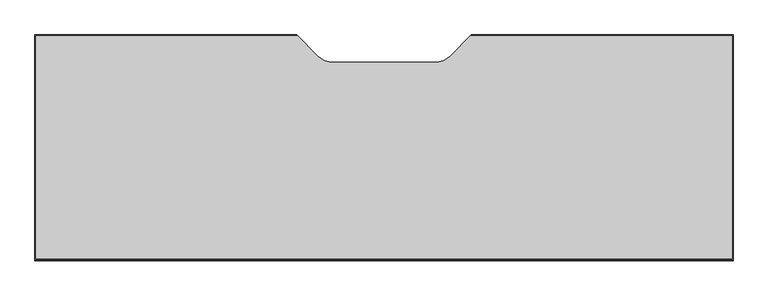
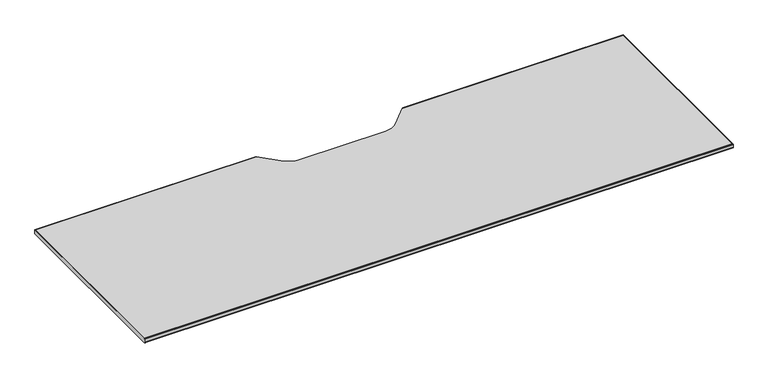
"""IFC4 building model written with IfcOpenShell, lengths in millimetres: furniture geometry, Steelcase Turnstone - Bivi - Table - Table Top : 24D x 72W."""

from ifc_helpers import new_model, si_unit, point, frame, frame_2d, origin, place, context, project, spatial, polyline, circle_curve, trimmed, segment, composite_curve, outline, extrude, source, transform, mapped, element, save
from ifc_brep_helpers import plane_surface, cylinder_surface, advanced_brep


def furniture_8c991483(model_context):
    return source(origin(), model_context, "Body", "SolidModel", [
        advanced_brep(
        [(514.3499939, 727.0750061, 723.566625), (515.3499939, 726.0750061, 723.566625), (515.3499939, 726.0750061, 710.485625), (514.3499939, 727.0750061, 710.485625), (957.8500067, 726.0750061, 723.566625), (958.8500061, 727.0750061, 723.566625), (958.8500061, 727.0750061, 710.485625), (957.8500067, 726.0750061, 710.485625), (1625.6, 727.0750061, 723.566625), (1624.6, 726.0750061, 723.566625), (1624.6, 155.2730061, 723.566625), (-151.4, 155.2730061, 723.566625), (-151.4, 726.0750061, 723.566625), (-152.4, 727.0750061, 723.566625), (-152.4, 154.3050061, 723.566625), (1625.6, 154.3050061, 723.566625), (1624.6, 726.0750061, 710.485625), (1624.6, 155.2730061, 710.485625), (1625.6, 727.0750061, 710.485625), (1625.6, 154.3050061, 710.485625), (-152.4, 154.3050061, 710.485625), (-152.4, 727.0750061, 710.485625), (-151.4, 726.0750061, 710.485625), (-151.4, 155.2730061, 710.485625), (1625.6, 152.2730061, 721.534625), (1625.6, 152.2730061, 712.517625), (-152.4, 152.2730061, 712.517625), (-152.4, 152.2730061, 721.534625)],
        [
            (0, 1),
            (1, 2),
            (2, 3),
            (3, 0),
            (4, 5),
            (5, 6),
            (6, 7),
            (7, 4),
            (8, 5),
            (4, 9),
            (9, 10),
            (10, 11),
            (11, 12),
            (12, 1),
            (0, 13),
            (13, 14),
            (14, 15),
            (15, 8),
            (9, 16),
            (16, 17),
            (17, 10),
            (16, 7),
            (6, 18),
            (18, 19),
            (19, 20),
            (20, 21),
            (21, 3),
            (2, 22),
            (22, 23),
            (23, 17),
            (15, 24, circle_curve(frame((1625.6, 154.3050061, 721.534625), z_axis=(1.0, 0.0, 0.0), x_axis=(0.0, 1.0, 0.0)), 2.032)),
            (24, 25),
            (25, 19, circle_curve(frame((1625.6, 154.3050061, 712.517625), z_axis=(1.0, 0.0, 0.0), x_axis=(0.0, 1.0, 0.0)), 2.032)),
            (18, 8),
            (12, 22),
            (21, 13),
            (11, 23),
            (20, 26, circle_curve(frame((-152.4, 154.3050061, 712.517625), z_axis=(-1.0, 0.0, 0.0), x_axis=(0.0, 1.0, 0.0)), 2.032)),
            (26, 27),
            (27, 14, circle_curve(frame((-152.4, 154.3050061, 721.534625), z_axis=(-1.0, 0.0, 0.0), x_axis=(0.0, 1.0, 0.0)), 2.032)),
            (25, 26),
            (24, 27),
        ],
        [
            plane_surface(frame((514.3499939, 727.0750061, 724.4389999), z_axis=(0.7071067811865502, 0.7071067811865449, 0.0), x_axis=(0.0, 0.0, -1.0))),
            plane_surface(frame((904.6973766, 672.9223408, 724.4389999), z_axis=(-0.7071070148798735, 0.7071065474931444, 0.0), x_axis=(0.0, 0.0, -1.0))),
            plane_surface(frame((1625.6, 155.2730061, 723.566625), z_axis=(0.0, 0.0, 1.0), x_axis=(0.0, 1.0, 0.0))),
            plane_surface(frame((1624.6, 155.2730061, 723.566625), z_axis=(-1.0, 0.0, 0.0), x_axis=(0.0, 1.0, 0.0))),
            plane_surface(frame((1624.6, 155.2730061, 710.485625), z_axis=(0.0, 0.0, -1.0), x_axis=(0.0, 1.0, 0.0))),
            plane_surface(frame((1625.6, 155.2730061, 710.485625), z_axis=(1.0, 0.0, 0.0), x_axis=(0.0, 1.0, 0.0))),
            plane_surface(frame((1624.6, 726.0750061, 723.566625), z_axis=(0.0, -1.0, 0.0), x_axis=(-1.0, 0.0, 0.0))),
            plane_surface(frame((1625.6, 727.0750061, 710.485625), z_axis=(0.0, 1.0, 0.0), x_axis=(-1.0, 0.0, 0.0))),
            plane_surface(frame((-151.4, 726.0750061, 723.566625), z_axis=(1.0, 0.0, 0.0), x_axis=(0.0, -1.0, 0.0))),
            plane_surface(frame((-152.4, 727.0750061, 710.485625), z_axis=(-1.0, 0.0, 0.0), x_axis=(0.0, -1.0, 0.0))),
            cylinder_surface(frame((-152.4, 154.3050061, 712.517625), z_axis=(-1.0, 0.0, 0.0), x_axis=(0.0, 1.0, 0.0)), 2.032),
            plane_surface(frame((-152.4, 152.2730061, 712.517625), z_axis=(0.0, -1.0, 0.0), x_axis=(1.0, 0.0, 0.0))),
            cylinder_surface(frame((-152.4, 154.3050061, 721.534625), z_axis=(-1.0, 0.0, 0.0), x_axis=(0.0, 1.0, 0.0)), 2.032),
            plane_surface(frame((-152.4, 155.2730061, 723.566625), z_axis=(0.0, 1.0, 0.0), x_axis=(1.0, 0.0, 0.0))),
        ],
        [
            (0, [[1, 2, 3, 4]]),
            (1, [[5, 6, 7, 8]]),
            (2, [[9, -5, 10, 11, 12, 13, 14, -1, 15, 16, 17, 18]]),
            (3, [[-11, 19, 20, 21]]),
            (4, [[-20, 22, -7, 23, 24, 25, 26, 27, -3, 28, 29, 30]]),
            (5, [[-18, 31, 32, 33, -24, 34]]),
            (6, [[-19, -10, -8, -22]]),
            (6, [[35, -28, -2, -14]]),
            (7, [[-34, -23, -6, -9]]),
            (7, [[36, -15, -4, -27]]),
            (8, [[-13, 37, -29, -35]]),
            (9, [[-16, -36, -26, 38, 39, 40]]),
            (10, [[-38, -25, -33, 41]]),
            (11, [[-39, -41, -32, 42]]),
            (12, [[-40, -42, -31, -17]]),
            (13, [[-30, -37, -12, -21]]),
        ],
    ),
        extrude(outline(composite_curve([segment(polyline([(1624.6, 726.0750061), (1624.6, 155.2730061), (-151.4, 155.2730061), (-151.4, 726.0750061), (515.3499939, 726.0750061), (568.512149, 672.912851)]), True, "CONTINUOUS"), segment(trimmed(circle_curve(frame_2d((606.3859497, 710.7866517)), 53.5616426), [point((568.512149, 672.912851))], [point((606.3859497, 657.2250091))], True, "CARTESIAN"), True, "CONTINUOUS"), segment(polyline([(606.3859497, 657.2250091), (866.8006832, 657.2250091)]), True, "CONTINUOUS"), segment(trimmed(circle_curve(frame_2d((866.8006832, 710.8190091)), 53.594), [point((866.8006832, 657.2250091))], [point((904.6973766, 672.9223408))], True, "CARTESIAN"), True, "CONTINUOUS"), segment(polyline([(904.6973766, 672.9223408), (957.8500067, 726.0750061), (1624.6, 726.0750061)]), True, "CONTINUOUS")], self_intersect=False)), frame((0.0, 0.0, 710.485625), z_axis=(0.0, 0.0, 1.0), x_axis=(1.0, 0.0, 0.0)), (0.0, 0.0, 1.0), 13.081),
    ])


if __name__ == "__main__":
    model = new_model("IFC4")
    model_context = context("Model", 3, world=origin())
    ifc_project = project(units=[si_unit("LENGTHUNIT", "METRE", prefix="MILLI")], contexts=[model_context])
    site = spatial("IfcSite", under=ifc_project)
    building = spatial("IfcBuilding", under=site)
    placement = place(None, origin())
    furniture_shape = furniture_8c991483(model_context)
    element("IfcFurniture", 1, ObjectType="Steelcase Turnstone - Bivi - Table - Table Top : 24D x 72W", at=placement, inside=building, context=model_context, shape_type="MappedRepresentation", body=[
        mapped(furniture_shape, transform((0.0, 0.0, 0.0), x_axis=(1.0, 0.0, 0.0), y_axis=(0.0, 1.0, 0.0), z_axis=(0.0, 0.0, 1.0))),
    ])
    save(model, "model.ifc")
